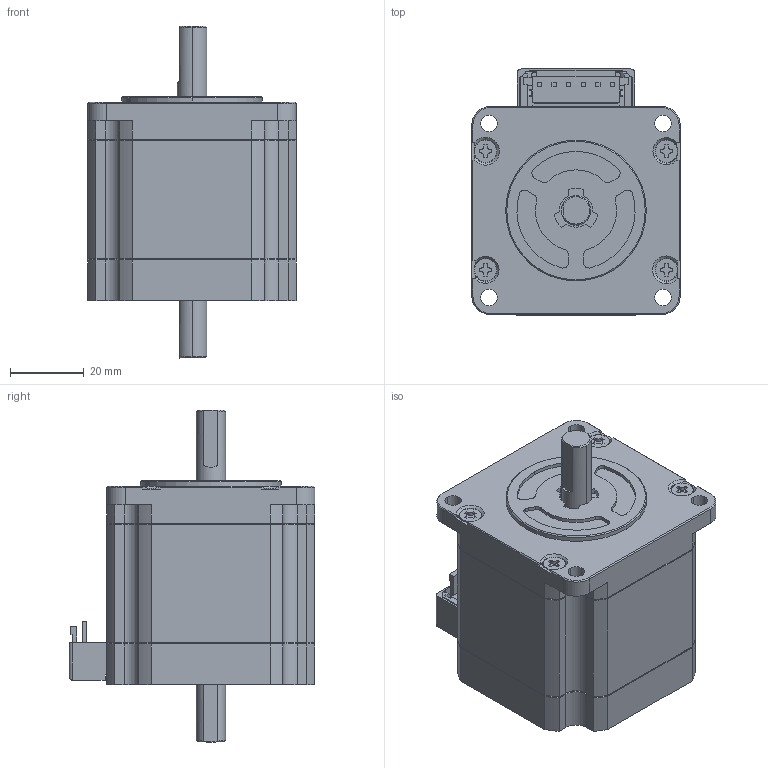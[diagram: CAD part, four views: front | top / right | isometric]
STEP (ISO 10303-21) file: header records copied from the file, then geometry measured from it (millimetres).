
FILE_DESCRIPTION (( 'STEP AP203' ), '1' );
FILE_NAME ('SM2562C10U11.STEP', '2021-05-07T07:34:27', ( '' ), ( '' ), 'SwSTEP 2.0', 'SolidWorks 2019', '' );
FILE_SCHEMA (( 'CONFIG_CONTROL_DESIGN' ));
Length unit declared in the file: millimetre
Products named in the file (11): Copy of TERMINAL^01124242; Copy of STATOR^01124242; Copy of COUNTER SHAFT^01124242; Copy of OUTPUT SHAFT^01124242; Copy of FRONT COVER^01124242; Copy of SCREW^01124242; Copy of CONNECTOR^Copy of TERMINAL_01124242; Copy of INSULATOR_REAR^01124242_コネクタタイプ（10.1L）; SM2562C10U11; Copy of SUBSTRATE^Copy of TERMINAL_01124242; Copy of REAR COVER^01124242
Assembly tree (13 placements, depth 3):
  SM2562C10U11
    Copy of FRONT COVER^01124242
    Copy of STATOR^01124242
    Copy of INSULATOR_REAR^01124242_コネクタタイプ（10.1L）
    Copy of TERMINAL^01124242
      Copy of SUBSTRATE^Copy of TERMINAL_01124242
      Copy of CONNECTOR^Copy of TERMINAL_01124242
    Copy of REAR COVER^01124242
    Copy of COUNTER SHAFT^01124242
    Copy of OUTPUT SHAFT^01124242
    Copy of SCREW^01124242  x4
Bounding box: 56.4 x 66.6 x 89.9 mm (x, y, z)
Volume: 174590.6 mm3; surface area: 40994 mm2
Topology: 12 solids, 12 shells, 639 faces, 1655 edges, 1066 vertices
Faces by surface type: plane 405, cylinder 162, cone 72
Entity records: 18637 total; most frequent: CARTESIAN_POINT 3173, ORIENTED_EDGE 2962, DIRECTION 2961, EDGE_CURVE 1481, LINE 1073, VECTOR 1073, VERTEX_POINT 952, AXIS2_PLACEMENT_3D 944
